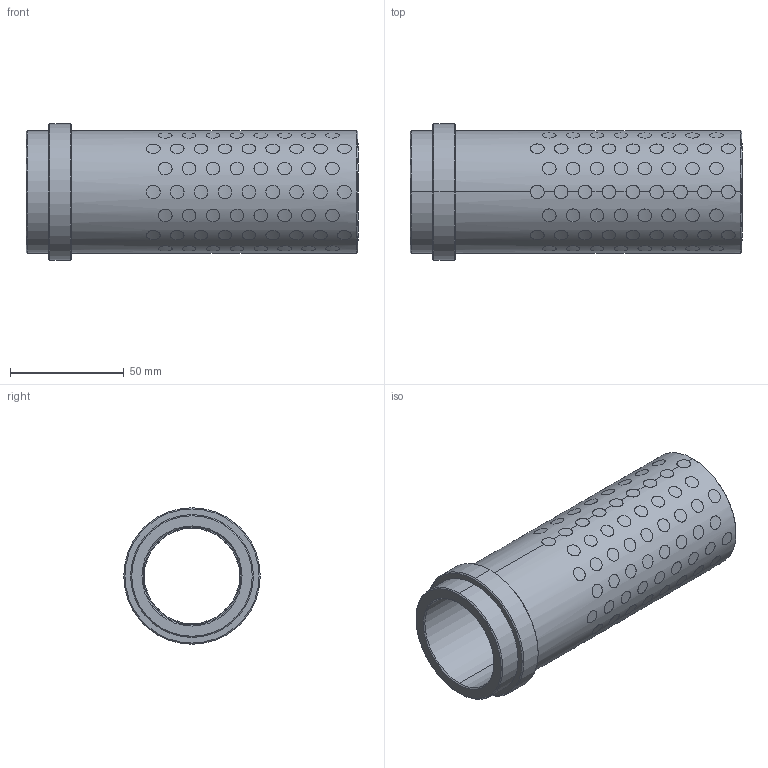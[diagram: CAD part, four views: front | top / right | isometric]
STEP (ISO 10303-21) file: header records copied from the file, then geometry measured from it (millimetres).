
FILE_DESCRIPTION((''),'2;1');
FILE_NAME('G31242136','2017-12-31T',('MANU'),(''),'PRO/ENGINEER BY PARAMETRIC TECHNOLOGY CORPORATION, 2012130','PRO/ENGINEER BY PARAMETRIC TECHNOLOGY CORPORATION, 2012130','');
FILE_SCHEMA(('CONFIG_CONTROL_DESIGN'));
Products named in the file (1): G31242136
Bounding box: 146 x 60 x 60 mm (x, y, z)
Volume: 133624.7 mm3; surface area: 77601.2 mm2
Topology: 137 solids, 137 shells, 843 faces, 1794 edges, 1192 vertices
Faces by surface type: cylinder 826, cone 12, plane 5
Entity records: 44570 total; most frequent: CARTESIAN_POINT 28201, ORIENTED_EDGE 3588, DIRECTION 2352, EDGE_CURVE 1794, VERTEX_POINT 1192, B_SPLINE_CURVE_WITH_KNOTS 1160, EDGE_LOOP 1084, AXIS2_PLACEMENT_3D 875
